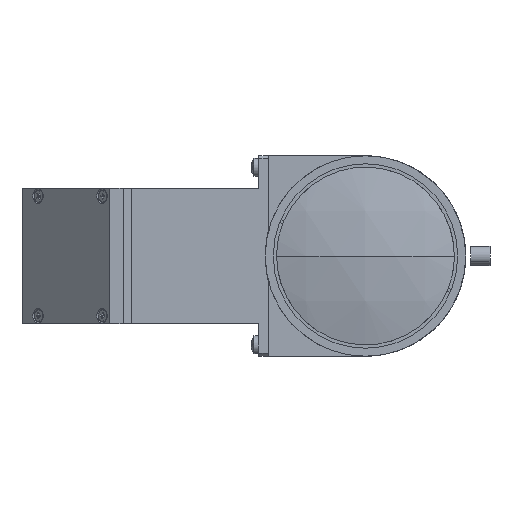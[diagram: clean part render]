
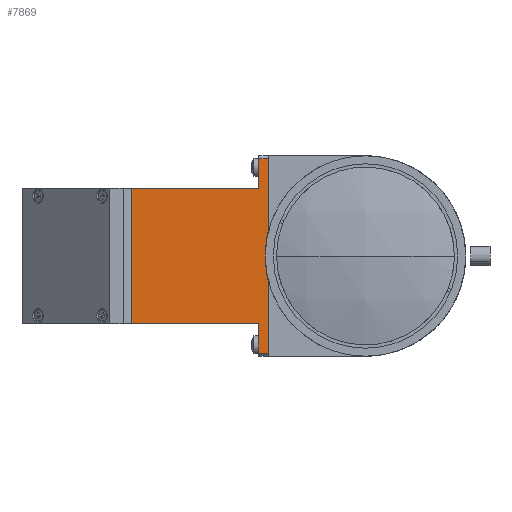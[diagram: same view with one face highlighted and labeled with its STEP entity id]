
A CAD part, left-side view. The second image highlights one B-rep face of the part: STEP entity #7869.
In plain terms, the highlighted planar face has unit normal (-1, 0, 0).
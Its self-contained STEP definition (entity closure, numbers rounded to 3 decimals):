
#68 = EDGE_CURVE ( 'NONE', #11945, #89, #3666, .T. ) ;
#89 = VERTEX_POINT ( 'NONE', #5012 ) ;
#148 = VERTEX_POINT ( 'NONE', #4132 ) ;
#184 = VERTEX_POINT ( 'NONE', #7800 ) ;
#421 = VECTOR ( 'NONE', #12222, 1000. ) ;
#622 = VERTEX_POINT ( 'NONE', #3685 ) ;
#945 = CARTESIAN_POINT ( 'NONE',  ( 85.998, -3.526, 21. ) ) ;
#1301 = VECTOR ( 'NONE', #12410, 1000. ) ;
#1543 = CARTESIAN_POINT ( 'NONE',  ( 85.998, 72.726, -30. ) ) ;
#1726 = EDGE_CURVE ( 'NONE', #148, #184, #9669, .T. ) ;
#1875 = DIRECTION ( 'NONE',  ( 1., 0., 0. ) ) ;
#2069 = CARTESIAN_POINT ( 'NONE',  ( 85.998, 33., -21. ) ) ;
#2330 = DIRECTION ( 'NONE',  ( 0., 0., 1. ) ) ;
#2628 = EDGE_LOOP ( 'NONE', ( #10870, #7927, #13294, #15601, #9433, #8312, #9679, #13868 ) ) ;
#2663 = CARTESIAN_POINT ( 'NONE',  ( 85.998, 33., 31. ) ) ;
#2791 = LINE ( 'NONE', #7430, #15803 ) ;
#2871 = VERTEX_POINT ( 'NONE', #4861 ) ;
#3519 = LINE ( 'NONE', #14471, #4725 ) ;
#3666 = LINE ( 'NONE', #14865, #421 ) ;
#3685 = CARTESIAN_POINT ( 'NONE',  ( 85.998, 72.443, -21. ) ) ;
#3918 = EDGE_CURVE ( 'NONE', #622, #184, #14168, .T. ) ;
#4107 = AXIS2_PLACEMENT_3D ( 'NONE', #4277, #1875, #15715 ) ;
#4132 = CARTESIAN_POINT ( 'NONE',  ( 85.998, 33., 21. ) ) ;
#4277 = CARTESIAN_POINT ( 'NONE',  ( 85.998, 72.726, 31. ) ) ;
#4313 = CARTESIAN_POINT ( 'NONE',  ( 85.998, 30., 30. ) ) ;
#4725 = VECTOR ( 'NONE', #10790, 1000. ) ;
#4861 = CARTESIAN_POINT ( 'NONE',  ( 85.998, 33., -30. ) ) ;
#5012 = CARTESIAN_POINT ( 'NONE',  ( 85.998, 33., 30. ) ) ;
#5469 = FACE_OUTER_BOUND ( 'NONE', #2628, .T. ) ;
#5494 = EDGE_CURVE ( 'NONE', #10917, #622, #2791, .T. ) ;
#5840 = DIRECTION ( 'NONE',  ( 0., 1., 0. ) ) ;
#6149 = DIRECTION ( 'NONE',  ( 0., 1., 0. ) ) ;
#6757 = CARTESIAN_POINT ( 'NONE',  ( 85.998, 33., -21. ) ) ;
#6974 = EDGE_CURVE ( 'NONE', #10917, #2871, #12930, .T. ) ;
#7250 = VECTOR ( 'NONE', #12659, 1000. ) ;
#7430 = CARTESIAN_POINT ( 'NONE',  ( 85.998, -3.526, -21. ) ) ;
#7800 = CARTESIAN_POINT ( 'NONE',  ( 85.998, 72.443, 21. ) ) ;
#7869 = ADVANCED_FACE ( 'NONE', ( #5469 ), #15241, .F. ) ;
#7927 = ORIENTED_EDGE ( 'NONE', *, *, #10299, .T. ) ;
#8132 = VECTOR ( 'NONE', #5840, 1000. ) ;
#8207 = EDGE_CURVE ( 'NONE', #89, #148, #13387, .T. ) ;
#8312 = ORIENTED_EDGE ( 'NONE', *, *, #1726, .T. ) ;
#8350 = VERTEX_POINT ( 'NONE', #8897 ) ;
#8897 = CARTESIAN_POINT ( 'NONE',  ( 85.998, 30., -30. ) ) ;
#9274 = CARTESIAN_POINT ( 'NONE',  ( 85.998, 72.443, 31. ) ) ;
#9433 = ORIENTED_EDGE ( 'NONE', *, *, #8207, .T. ) ;
#9622 = VECTOR ( 'NONE', #2330, 1000. ) ;
#9669 = LINE ( 'NONE', #945, #8132 ) ;
#9679 = ORIENTED_EDGE ( 'NONE', *, *, #3918, .F. ) ;
#10299 = EDGE_CURVE ( 'NONE', #2871, #8350, #12503, .T. ) ;
#10468 = VECTOR ( 'NONE', #11489, 1000. ) ;
#10790 = DIRECTION ( 'NONE',  ( 0., 0., -1. ) ) ;
#10870 = ORIENTED_EDGE ( 'NONE', *, *, #6974, .T. ) ;
#10879 = EDGE_CURVE ( 'NONE', #11945, #8350, #3519, .T. ) ;
#10917 = VERTEX_POINT ( 'NONE', #2069 ) ;
#11489 = DIRECTION ( 'NONE',  ( 0., 0., -1. ) ) ;
#11945 = VERTEX_POINT ( 'NONE', #4313 ) ;
#12222 = DIRECTION ( 'NONE',  ( 0., 1., 0. ) ) ;
#12410 = DIRECTION ( 'NONE',  ( 0., 0., -1. ) ) ;
#12503 = LINE ( 'NONE', #1543, #7250 ) ;
#12659 = DIRECTION ( 'NONE',  ( 0., -1., 0. ) ) ;
#12930 = LINE ( 'NONE', #6757, #10468 ) ;
#13294 = ORIENTED_EDGE ( 'NONE', *, *, #10879, .F. ) ;
#13387 = LINE ( 'NONE', #2663, #1301 ) ;
#13868 = ORIENTED_EDGE ( 'NONE', *, *, #5494, .F. ) ;
#14168 = LINE ( 'NONE', #9274, #9622 ) ;
#14471 = CARTESIAN_POINT ( 'NONE',  ( 85.998, 30., 31. ) ) ;
#14865 = CARTESIAN_POINT ( 'NONE',  ( 85.998, 33., 30. ) ) ;
#15241 = PLANE ( 'NONE',  #4107 ) ;
#15601 = ORIENTED_EDGE ( 'NONE', *, *, #68, .T. ) ;
#15715 = DIRECTION ( 'NONE',  ( 0., 1., 0. ) ) ;
#15803 = VECTOR ( 'NONE', #6149, 1000. ) ;
